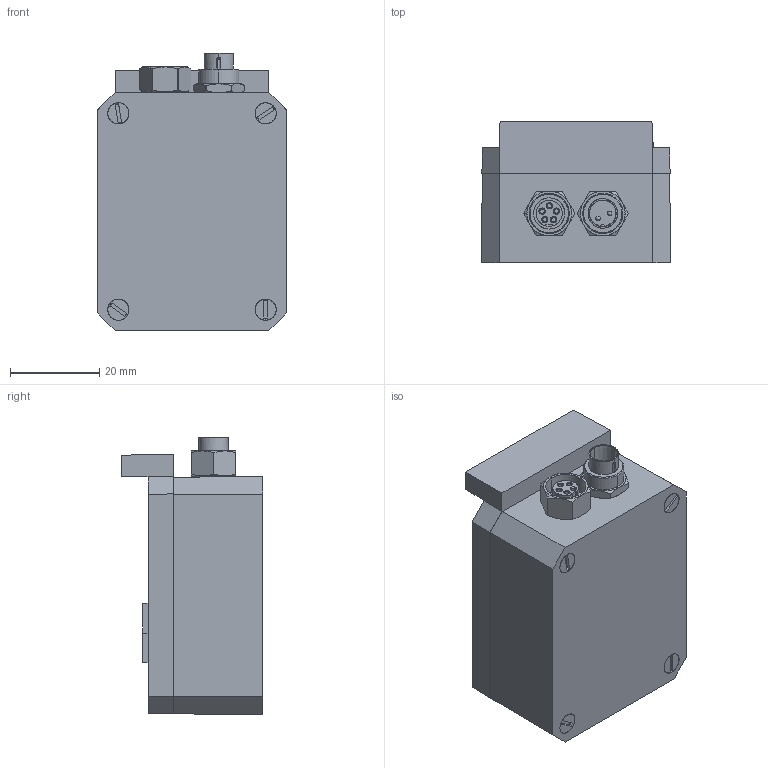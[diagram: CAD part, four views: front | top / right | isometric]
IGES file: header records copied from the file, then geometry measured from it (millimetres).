
Start section: SolidWorks IGES file using analytic representation for surfaces
Global section: file name: C:\Users\render\Documents\CAD Files\CoolmuscleMotors\CM1-InterfaceOptions\CM1CAN2\CM1CAN2.IGS; native system: SolidWorks 2009; preprocessor: SolidWorks 2009; author: render; date: 100707.134653; units: millimetre
Bounding box: 42.35 x 31.7 x 62.1 mm (x, y, z)
Surface area: 25063.1 mm2 (no closed solid volume)
Topology: 0 solids, 0 shells, 977 faces, 8202 edges, 8193 vertices
Faces by surface type: bspline 717, revolution 260
